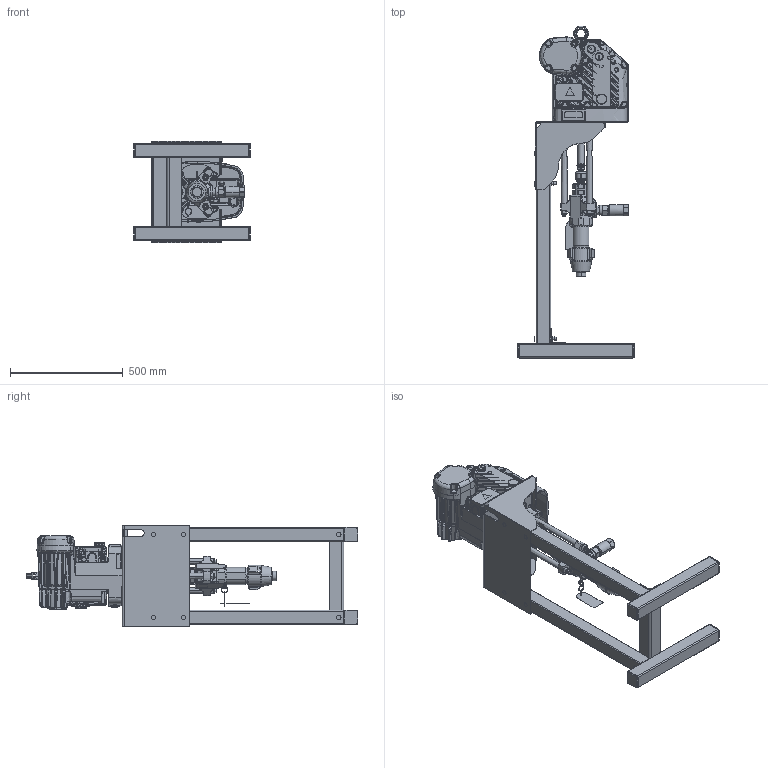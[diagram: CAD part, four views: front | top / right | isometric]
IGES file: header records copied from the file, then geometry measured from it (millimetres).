
Start section:  PTC IGES file: es0340-en-j.igs
Global section: file name: es0340-en-j.igs; native system: Creo Parametric by PTC Inc.; preprocessor: 2021072; author: qtmwp1; organization: Unknown; date: 20220221.150607; units: inch
Bounding box: 517.65 x 1474.36 x 450.85 mm (x, y, z)
Surface area: 3069665.5 mm2 (no closed solid volume)
Topology: 0 solids, 0 shells, 2455 faces, 14316 edges, 14316 vertices
Faces by surface type: bspline 1246, revolution 1177, extrusion 32
